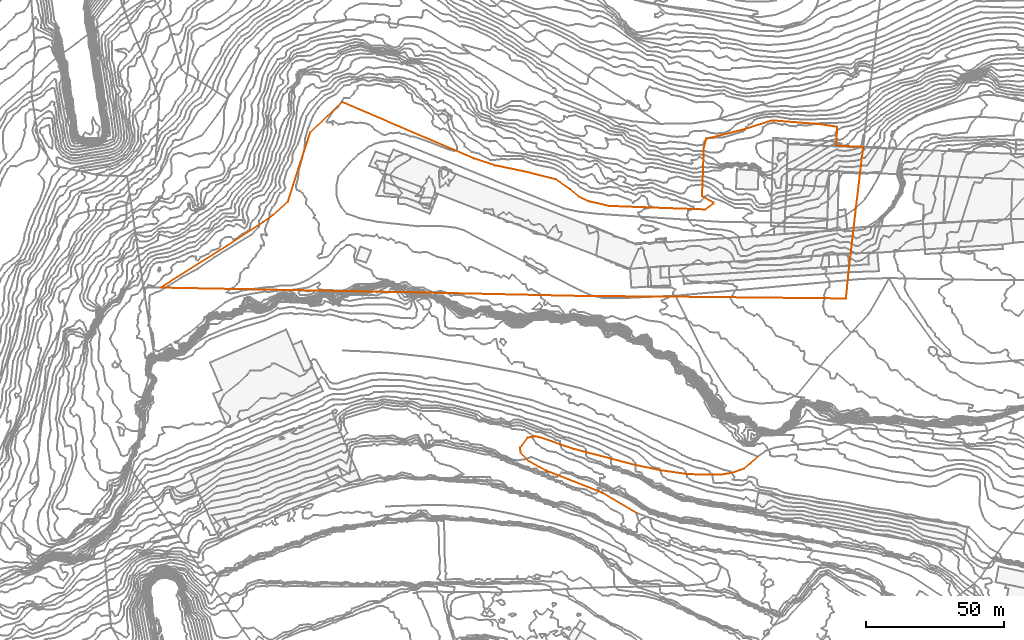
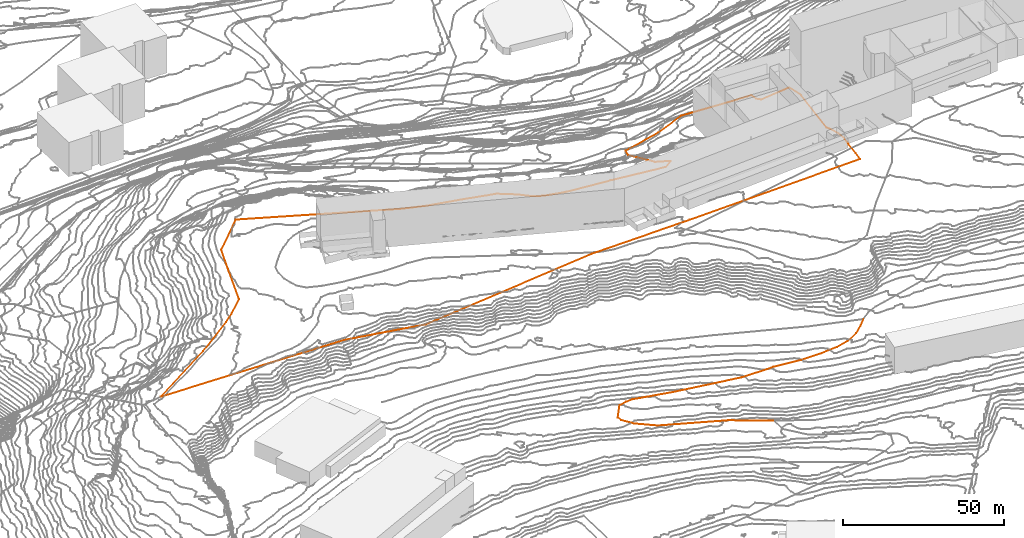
# Not in any storey, part 202 of 419: 2 proxies.
"""IFC2X3 model written with IfcOpenShell, lengths in metres."""

import ifcopenshell
import ifcopenshell.guid

model = None  # the IFC model being written
_history = None  # IfcOwnerHistory: only IFC2X3 demands one
_inside = {}  # id of a spatial element -> (the spatial element, [elements in it])
_under = {}  # id of a project, library or spatial element -> (it, [spatial elements below it])
_declared = {}  # id of a project -> (the project, [libraries it declares])
_typed = {}  # id of a type object -> (the type object, [elements of that type])
_made_of = {}  # id of a material, layer set ... -> (it, [elements and type objects made of it])


def new_model(schema):
    """Start an empty IFC model of exactly this schema.

    Asked for "IFC4X3", IfcOpenShell would pick the latest addendum, in which some entities
    have other attributes; the version numbers below select the first issue.
    IFC2X3 requires an IfcOwnerHistory on every rooted entity: one is made here for all.
    """
    global model, _history
    if schema == "IFC4X3":
        model = ifcopenshell.file(schema_version=(4, 3, 0, 0))
    else:
        model = ifcopenshell.file(schema=schema)
    _inside.clear()
    _under.clear()
    _declared.clear()
    _typed.clear()
    _made_of.clear()
    _history = None
    if model.schema == "IFC2X3":
        org = make("IfcOrganization", Name="unknown")
        user = make(
            "IfcPersonAndOrganization",
            ThePerson=make("IfcPerson", FamilyName="unknown"),
            TheOrganization=org,
        )
        app = make(
            "IfcApplication",
            ApplicationDeveloper=org,
            Version="unknown",
            ApplicationFullName="unknown",
            ApplicationIdentifier="unknown",
        )
        _history = make(
            "IfcOwnerHistory",
            OwningUser=user,
            OwningApplication=app,
            ChangeAction="ADDED",
            CreationDate=0,
        )
    return model


def make(cls, **values):
    """One entity of the class cls with the attributes given. An attribute that is None is left unset."""
    return model.create_entity(
        cls, **{name: value for name, value in values.items() if value is not None}
    )


def entity(cls, *values):
    """Any entity or typed value of the class cls, its attributes in the order of the schema. None: left unset."""
    e = model.create_entity(cls)
    for i, value in enumerate(values):
        if value is not None:
            e[i] = value
    return e


def rooted(cls, **values):
    """An entity with a GlobalId (a new one), such as an element, a storey or a relation."""
    return make(cls, GlobalId=ifcopenshell.guid.new(), OwnerHistory=_history, **values)


def si_unit(unit_type, name, prefix=None):
    """IfcSIUnit, for example si_unit("LENGTHUNIT", "METRE", prefix="MILLI")."""
    return make("IfcSIUnit", UnitType=unit_type, Prefix=prefix, Name=name)


def assignment(units):
    """IfcUnitAssignment: the units of a project."""
    return None if units is None else make("IfcUnitAssignment", Units=units)


def point(xyz):
    """IfcCartesianPoint."""
    return None if xyz is None else make("IfcCartesianPoint", Coordinates=xyz)


def direction(xyz):
    """IfcDirection."""
    return None if xyz is None else make("IfcDirection", DirectionRatios=xyz)


def frame(location, z_axis=None, x_axis=None):
    """IfcAxis2Placement3D, a coordinate frame: its origin and axes. An axis left out is left unset."""
    return make(
        "IfcAxis2Placement3D",
        Location=point(location),
        Axis=direction(z_axis),
        RefDirection=direction(x_axis),
    )


def origin_with_axes():
    """The frame at (0, 0, 0) with the z axis (0, 0, 1) and the x axis (1, 0, 0) written out."""
    return frame((0.0, 0.0, 0.0), z_axis=(0.0, 0.0, 1.0), x_axis=(1.0, 0.0, 0.0))


def place(relative_to, where):
    """IfcLocalPlacement: puts the frame where relative to a parent placement (None: the world)."""
    return make(
        "IfcLocalPlacement", PlacementRelTo=relative_to, RelativePlacement=where
    )


def context(
    kind, dimensions, precision=None, world=None, true_north=None, identifier=None
):
    """IfcGeometricRepresentationContext, for example the 3D "Model" context."""
    return make(
        "IfcGeometricRepresentationContext",
        ContextIdentifier=identifier,
        ContextType=kind,
        CoordinateSpaceDimension=dimensions,
        Precision=precision,
        WorldCoordinateSystem=world,
        TrueNorth=true_north,
    )


def subcontext(parent, identifier, kind, view, scale=None):
    """IfcGeometricRepresentationSubContext, for example "Body" below "Model"."""
    return make(
        "IfcGeometricRepresentationSubContext",
        ContextIdentifier=identifier,
        ContextType=kind,
        ParentContext=parent,
        TargetScale=scale,
        TargetView=view,
    )


def project(units=None, contexts=None):
    """IfcProject with its units and contexts."""
    return rooted(
        "IfcProject",
        Name="project",
        RepresentationContexts=contexts,
        UnitsInContext=assignment(units),
    )


def shape(context_of_items, identifier, shape_type, items):
    """IfcShapeRepresentation: the items that make up one representation, for example the "Body"."""
    return make(
        "IfcShapeRepresentation",
        ContextOfItems=context_of_items,
        RepresentationIdentifier=identifier,
        RepresentationType=shape_type,
        Items=items,
    )


def made_of(thing, what):
    """Note that an element or type object is made of a material, layer set ...; save() writes the relation."""
    if what is not None:
        _made_of.setdefault(what.id(), (what, []))[1].append(thing)
    return thing


def element(
    cls,
    number,
    at=None,
    inside=None,
    cuts=None,
    type_object=None,
    material=None,
    context=None,
    identifier="Body",
    shape_type=None,
    held_by="IfcProductDefinitionShape",
    body=None,
    shapes=None,
    **own,
):
    """One element of the class cls, such as IfcWall. Its Tag is "e" and its number.

    at: its placement. inside: the storey or other place that contains it. cuts: it is an
    opening in that element (IfcRelVoidsElement). A single representation is given by context,
    identifier, shape_type and body (its items); several are given by shapes. held_by: the class
    of the entity that holds the representations. save() writes the other relations.
    """
    e = rooted(cls, Tag="e%d" % number, ObjectPlacement=at, **own)
    if body is not None:
        shapes = [shape(context, identifier, shape_type, body)]
    if shapes is not None:
        e.Representation = make(held_by, Representations=shapes)
    if inside is not None:
        _inside.setdefault(inside.id(), (inside, []))[1].append(e)
    if cuts is not None:
        rooted(
            "IfcRelVoidsElement", RelatingBuildingElement=cuts, RelatedOpeningElement=e
        )
    if type_object is not None:
        _typed.setdefault(type_object.id(), (type_object, []))[1].append(e)
    return made_of(e, material)


def aggregate(whole, parts):
    """IfcRelAggregates: a whole, such as a stair, and the parts it consists of."""
    return rooted("IfcRelAggregates", RelatingObject=whole, RelatedObjects=parts)


def save(model, path):
    """Write the relations noted so far, then the file.

    IfcRelAggregates (storeys below a building ...), IfcRelContainedInSpatialStructure (elements
    in a storey), IfcRelDefinesByType, IfcRelAssociatesMaterial and IfcRelDeclares: one each for
    every whole, place, type object, material and project.
    """
    for whole, parts in _under.values():
        aggregate(whole, parts)
    for where, things in _inside.values():
        rooted(
            "IfcRelContainedInSpatialStructure",
            RelatedElements=things,
            RelatingStructure=where,
        )
    for kind, things in _typed.values():
        rooted("IfcRelDefinesByType", RelatedObjects=things, RelatingType=kind)
    for what, things in _made_of.values():
        rooted("IfcRelAssociatesMaterial", RelatedObjects=things, RelatingMaterial=what)
    for by, libraries in _declared.values():
        rooted("IfcRelDeclares", RelatingContext=by, RelatedDefinitions=libraries)
    model.write(path)


model = new_model("IFC2X3")

# Units and contexts
model_context = context("Model", 3, precision=1e-05, world=origin_with_axes())
body_context = subcontext(model_context, "Body", "Model", "MODEL_VIEW")
ifc_project = project(units=[si_unit("AREAUNIT", "SQUARE_METRE"), si_unit("LENGTHUNIT", "METRE")], contexts=[model_context])

# Proxies
proxy_1_placement = place(None, frame((403.9920204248, 241.4976909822, 49.6), z_axis=(0.0, 0.0, 1.0), x_axis=(1.0, 0.0, 0.0)))
element("IfcBuildingElementProxy", 1, at=proxy_1_placement, Name="Route 241", ObjectType="NOTDEFINED", context=body_context, shape_type="GeometricCurveSet", body=[
    entity("IfcGeometricCurveSet", [entity("IfcPolyline", [entity("IfcCartesianPoint", [42.2999999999, -23.6999999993, -1.7]), entity("IfcCartesianPoint", [30.1, -16.3999999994, -1.7]), entity("IfcCartesianPoint", [9.5, -8.2999999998, -1.4]), entity("IfcCartesianPoint", [3.1, -4.7999999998, -0.5]), entity("IfcCartesianPoint", [0.2999999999, -1.6999999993, -0.1]), entity("IfcCartesianPoint", [0.0, 0.0, 0.0]), entity("IfcCartesianPoint", [2.7999999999, 3.7000000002, 1.4]), entity("IfcCartesianPoint", [5.4, 4.2000000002, 1.5]), entity("IfcCartesianPoint", [7.5, 3.7000000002, 2.0]), entity("IfcCartesianPoint", [19.5, -0.3999999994, 3.0]), entity("IfcCartesianPoint", [41.2, -6.0999999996, 4.5]), entity("IfcCartesianPoint", [51.2999999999, -8.1999999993, 6.2]), entity("IfcCartesianPoint", [60.4, -9.5, 6.4]), entity("IfcCartesianPoint", [67.1, -9.7999999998, 6.7]), entity("IfcCartesianPoint", [73.2, -9.6999999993, 7.0]), entity("IfcCartesianPoint", [77.2999999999, -9.0, 7.4]), entity("IfcCartesianPoint", [81.2999999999, -7.5, 8.0]), entity("IfcCartesianPoint", [84.0, -5.3999999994, 8.6]), entity("IfcCartesianPoint", [86.2999999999, -3.1999999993, 9.0])])]),
])
proxy_2_placement = place(None, frame((273.4920204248, 299.6476909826, 67.8182491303), z_axis=(0.0, 0.0, 1.0), x_axis=(1.0, 0.0, 0.0)))
element("IfcBuildingElementProxy", 2, at=proxy_2_placement, Name="Cadastre 358", ObjectType="NOTDEFINED", context=body_context, shape_type="GeometricCurveSet", body=[
    entity("IfcGeometricCurveSet", [entity("IfcPolyline", [entity("IfcCartesianPoint", [0.0, 0.0, 0.0]), entity("IfcCartesianPoint", [23.97, 15.1200000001, -0.2822829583]), entity("IfcCartesianPoint", [37.25, 23.7800000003, 0.8149574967]), entity("IfcCartesianPoint", [40.67, 26.25, 1.512201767]), entity("IfcCartesianPoint", [46.27, 31.29, 1.9608500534]), entity("IfcCartesianPoint", [51.22, 46.75, 2.2557535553]), entity("IfcCartesianPoint", [54.35, 56.3200000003, 2.6028992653]), entity("IfcCartesianPoint", [65.9, 67.3700000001, 3.3119510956]), entity("IfcCartesianPoint", [113.89, 46.8799999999, 3.0620394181]), entity("IfcCartesianPoint", [121.52, 44.3799999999, 3.1110586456]), entity("IfcCartesianPoint", [132.5, 42.0800000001, 3.0070722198]), entity("IfcCartesianPoint", [143.4300000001, 39.3399999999, 2.9791174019]), entity("IfcCartesianPoint", [148.6899999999, 35.6900000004, 3.0682495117]), entity("IfcCartesianPoint", [151.76, 33.0800000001, 2.9966379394]), entity("IfcCartesianPoint", [155.39, 31.3300000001, 2.8637248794]), entity("IfcCartesianPoint", [162.95, 29.6399999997, 2.75871278]), entity("IfcCartesianPoint", [178.4, 29.0600000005, 2.0535921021]), entity("IfcCartesianPoint", [197.73, 28.3700000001, 0.7775037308]), entity("IfcCartesianPoint", [200.76, 30.5899999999, 0.5267810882]), entity("IfcCartesianPoint", [200.8, 30.8300000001, 0.5194687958]), entity("IfcCartesianPoint", [196.63, 33.1600000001, 0.1707329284]), entity("IfcCartesianPoint", [197.28, 50.9299999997, -8.2712283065]), entity("IfcCartesianPoint", [198.12, 54.0200000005, -8.7286659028]), entity("IfcCartesianPoint", [211.75, 57.4299999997, -8.7459283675]), entity("IfcCartesianPoint", [221.9300000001, 60.71, -7.8609141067]), entity("IfcCartesianPoint", [239.37, 59.3200000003, -7.5556401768]), entity("IfcCartesianPoint", [244.34, 58.5899999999, -7.0883780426]), entity("IfcCartesianPoint", [245.66, 58.3300000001, -6.9106571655]), entity("IfcCartesianPoint", [245.53, 55.1000000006, -6.2840044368]), entity("IfcCartesianPoint", [245.37, 51.5, -4.3261487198]), entity("IfcCartesianPoint", [255.15, 51.0800000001, -2.9334829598]), entity("IfcCartesianPoint", [254.01, 41.79, 0.2679294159]), entity("IfcCartesianPoint", [251.66, 21.7800000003, 0.9186775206]), entity("IfcCartesianPoint", [250.58, 12.4299999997, 4.6261518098]), entity("IfcCartesianPoint", [250.05, 7.9699999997, 5.6252314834]), entity("IfcCartesianPoint", [249.8, 5.5, 5.6149980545]), entity("IfcCartesianPoint", [249.7, 4.6100000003, 5.5593090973]), entity("IfcCartesianPoint", [249.1899999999, -0.5800000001, 5.5058489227]), entity("IfcCartesianPoint", [248.85, -3.9500000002, 5.5257493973]), entity("IfcCartesianPoint", [188.01, -3.2999999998, 3.3277072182]), entity("IfcCartesianPoint", [153.16, -3.0499999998, 2.5551488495]), entity("IfcCartesianPoint", [94.16, -1.7599999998, -4.4318257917]), entity("IfcCartesianPoint", [65.15, -1.2299999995, -0.4871414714]), entity("IfcCartesianPoint", [0.0, 0.0, 0.0])])]),
])

save(model, "model.ifc")
